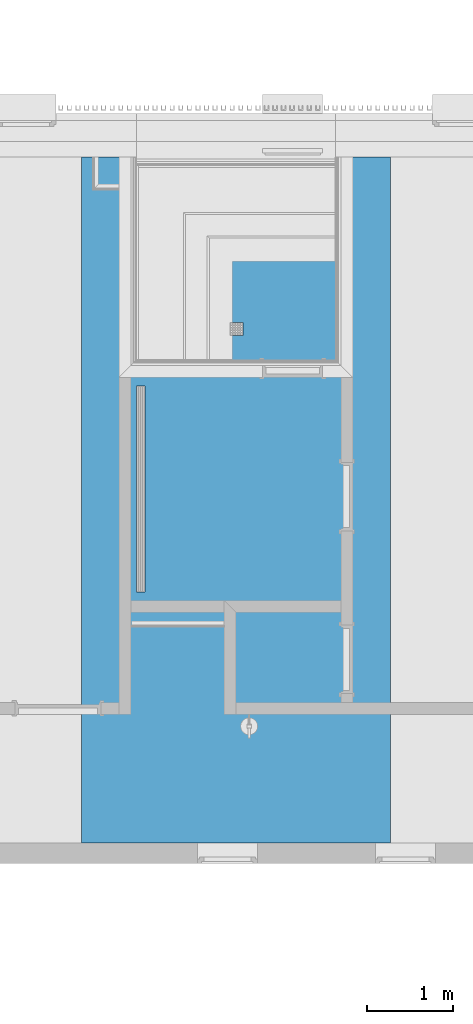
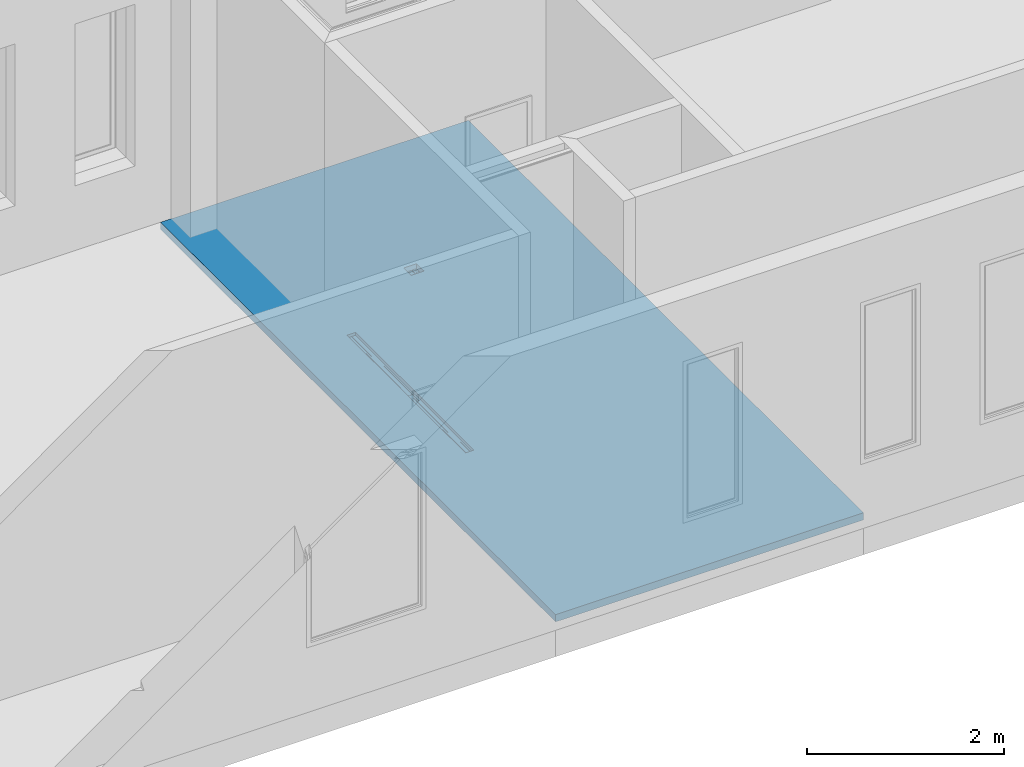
# One storey, part 64 of 100: 1 building element part, 1 element without a shape of its own.
"""IFC2X3 building model written with IfcOpenShell, lengths in millimetres."""

from ifc_helpers import new_model, entity, si_unit, converted_unit, derived_unit, money_unit, direction, frame, origin_with_axes, place, context, subcontext, project, spatial, polyline, outline, extrude, boolean, faceted_brep, material, type_object, element, aggregate, save


model = new_model("IFC2X3")

# Units and contexts
model_context = context("Model", 3, precision=0.01, world=origin_with_axes(), true_north=direction((0.0, 1.0)))
body_context = subcontext(model_context, "Body", "Model", "MODEL_VIEW")
ifc_project = project(units=[si_unit("LENGTHUNIT", "METRE", prefix="MILLI"), si_unit("AREAUNIT", "SQUARE_METRE"), si_unit("VOLUMEUNIT", "CUBIC_METRE"), converted_unit("PLANEANGLEUNIT", "DEGREE", entity("IfcPlaneAngleMeasure", 0.0174532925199), si_unit("PLANEANGLEUNIT", "RADIAN"), dimensions=[0, 0, 0, 0, 0, 0, 0]), si_unit("SOLIDANGLEUNIT", "STERADIAN"), money_unit("EUR"), converted_unit("TIMEUNIT", "Year", entity("IfcTimeMeasure", 31556926.0), si_unit("TIMEUNIT", "SECOND"), dimensions=[0, 0, 1, 0, 0, 0, 0]), si_unit("MASSUNIT", "GRAM", prefix="KILO"), si_unit("THERMODYNAMICTEMPERATUREUNIT", "DEGREE_CELSIUS"), si_unit("LUMINOUSINTENSITYUNIT", "LUMEN"), si_unit("ENERGYUNIT", "JOULE", prefix="MEGA"), derived_unit("THERMALCONDUCTANCEUNIT", [(si_unit("POWERUNIT", "WATT"), 1), (si_unit("LENGTHUNIT", "METRE"), -1), (si_unit("THERMODYNAMICTEMPERATUREUNIT", "KELVIN"), -1)]), derived_unit("SPECIFICHEATCAPACITYUNIT", [(si_unit("ENERGYUNIT", "JOULE"), 1), (si_unit("MASSUNIT", "GRAM", prefix="KILO"), -1), (si_unit("THERMODYNAMICTEMPERATUREUNIT", "KELVIN"), -1)]), derived_unit("MASSDENSITYUNIT", [(si_unit("MASSUNIT", "GRAM", prefix="KILO"), 1), (si_unit("VOLUMEUNIT", "CUBIC_METRE"), -1)])], contexts=[model_context])

# Site, building, storey
site_placement = place(None, origin_with_axes())
site = spatial("IfcSite", under=ifc_project, at=site_placement, Name="Politse- ja Piirivalveameti ning Päästeameti ühishoone", CompositionType="ELEMENT")
building_placement = place(site_placement, origin_with_axes())
building = spatial("IfcBuilding", under=site, at=building_placement, Name="Politse- ja Piirivalveameti ning Päästeameti ühishoone", CompositionType="ELEMENT")
storey_placement = place(building_placement, frame((0.0, 0.0, 3800.0), z_axis=(0.0, 0.0, 1.0), x_axis=(1.0, 0.0, 0.0)))
storey = spatial("IfcBuildingStorey", under=building, at=storey_placement, Name="Teine korrus", CompositionType="ELEMENT", Elevation=3800.0)

# Slab, building element part
slab_type = type_object("IfcSlabType", Name="VL-05_Vahelagi   400 paneel 520", PredefinedType="NOTDEFINED")
slab_placement = place(storey_placement, frame((42610.0318541, 13000.0198611, 0.0), z_axis=(0.0, 0.0, 1.0), x_axis=(1.0, 0.0, 0.0)))
slab = element("IfcSlab", 1, at=slab_placement, inside=storey, type_object=slab_type, Name="VL-05", PredefinedType="NOTDEFINED")
ifc_material = material(Name="VKR-01_Betoon")
building_element_part_placement = place(slab_placement, origin_with_axes())
building_element_part = element("IfcBuildingElementPart", 2, at=building_element_part_placement, material=ifc_material, Name="VKR-01_Betoon", context=body_context, shape_type="CSG", body=[
    boolean("DIFFERENCE", boolean("DIFFERENCE", boolean("DIFFERENCE", extrude(outline(polyline([(0.0, 0.0), (3599.96251087, 0.0), (3599.99627145, 7999.8850733), (-0.00384055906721, 7999.87354941), (0.0, 0.0)])), frame((0.0, 0.0, -90.0), z_axis=(0.0, 0.0, 1.0), x_axis=(1.0, 0.0, 0.0)), (0.0, 0.0, 1.0), 90.0), faceted_brep([(1730.20181919, 5919.88844434, -90.0), (1880.20181919, 5919.88844434, -90.0), (1880.20181919, 6069.88844434, -90.0), (1730.20181919, 6069.88844434, -90.0), (1849.70181919, 6039.38844434, -90.0), (1849.70181919, 6064.88844434, -90.0), (1875.20181919, 6064.88844434, -90.0), (1875.20181919, 6039.38844434, -90.0), (1849.70181919, 6010.38844434, -90.0), (1849.70181919, 6037.38844434, -90.0), (1875.20181919, 6037.38844434, -90.0), (1875.20181919, 6010.38844434, -90.0), (1849.70181919, 5981.38844434, -90.0), (1849.70181919, 6008.38844434, -90.0), (1875.20181919, 6008.38844434, -90.0), (1875.20181919, 5981.38844434, -90.0), (1849.70181919, 5952.38844434, -90.0), (1849.70181919, 5979.38844434, -90.0), (1875.20181919, 5979.38844434, -90.0), (1875.20181919, 5952.38844434, -90.0), (1820.70181919, 6039.38844434, -90.0), (1820.70181919, 6064.88844434, -90.0), (1847.70181919, 6064.88844434, -90.0), (1847.70181919, 6039.38844434, -90.0), (1820.70181919, 6010.38844434, -90.0), (1820.70181919, 6037.38844434, -90.0), (1847.70181919, 6037.38844434, -90.0), (1847.70181919, 6010.38844434, -90.0), (1820.70181919, 5981.38844434, -90.0), (1820.70181919, 6008.38844434, -90.0), (1847.70181919, 6008.38844434, -90.0), (1847.70181919, 5981.38844434, -90.0), (1820.70181919, 5952.38844434, -90.0), (1820.70181919, 5979.38844434, -90.0), (1847.70181919, 5979.38844434, -90.0), (1847.70181919, 5952.38844434, -90.0), (1791.70181919, 6039.38844434, -90.0), (1791.70181889, 6064.88844434, -90.0), (1818.70181919, 6064.88844434, -90.0), (1818.70181919, 6039.38844434, -90.0), (1791.70181919, 6010.38844434, -90.0), (1791.70181919, 6037.38844434, -90.0), (1818.70181919, 6037.38844434, -90.0), (1818.70181919, 6010.38844434, -90.0), (1791.70181919, 5981.38844434, -90.0), (1791.70181919, 6008.38844434, -90.0), (1818.70181919, 6008.38844434, -90.0), (1818.70181919, 5981.38844434, -90.0), (1791.70181919, 5952.38844434, -90.0), (1791.70181919, 5979.38844434, -90.0), (1818.70181919, 5979.38844434, -90.0), (1818.70181919, 5952.38844434, -90.0), (1762.70181919, 6039.38844434, -90.0), (1762.70181889, 6064.88844434, -90.0), (1789.70181919, 6064.88844434, -90.0), (1789.70181919, 6039.38844434, -90.0), (1762.70181919, 6010.38844434, -90.0), (1762.70181919, 6037.38844434, -90.0), (1789.70181919, 6037.38844434, -90.0), (1789.70181919, 6010.38844434, -90.0), (1762.70181919, 5981.38844434, -90.0), (1762.70181919, 6008.38844434, -90.0), (1789.70181919, 6008.38844434, -90.0), (1789.70181919, 5981.38844434, -90.0), (1762.70181919, 5952.38844434, -90.0), (1762.70181919, 5979.38844434, -90.0), (1789.70181919, 5979.38844434, -90.0), (1789.70181919, 5952.38844434, -90.0), (1735.20181919, 6039.38844434, -90.0), (1735.20181919, 6064.88844434, -90.0), (1760.70181919, 6064.88844434, -90.0), (1760.70181919, 6039.38844434, -90.0), (1735.20181919, 6010.38844434, -90.0), (1735.20181919, 6037.38844434, -90.0), (1760.70181919, 6037.38844434, -90.0), (1760.70181919, 6010.38844434, -90.0), (1735.20181919, 5981.38844434, -90.0), (1735.20181919, 6008.38844434, -90.0), (1760.70181919, 6008.38844434, -90.0), (1760.70181919, 5981.38844434, -90.0), (1735.20181919, 5952.38844434, -90.0), (1735.20181919, 5979.38844434, -90.0), (1760.70181919, 5979.38844434, -90.0), (1760.70181919, 5952.38844434, -90.0), (1735.20181919, 5924.88844434, -90.0), (1735.20181919, 5950.38844434, -90.0), (1760.70181919, 5950.38844434, -90.0), (1760.70181919, 5924.88844434, -90.0), (1762.70181919, 5924.88844434, -90.0), (1762.70181919, 5950.38844434, -90.0), (1789.70181919, 5950.38844434, -90.0), (1789.70181919, 5924.88844434, -90.0), (1791.70181919, 5924.88844434, -90.0), (1791.70181919, 5950.38844434, -90.0), (1818.70181919, 5950.38844434, -90.0), (1818.70181919, 5924.88844434, -90.0), (1820.70181919, 5924.88844434, -90.0), (1820.70181919, 5950.38844434, -90.0), (1847.70181919, 5950.38844434, -90.0), (1847.70181919, 5924.88844434, -90.0), (1849.70181919, 5924.88844434, -90.0), (1849.70181919, 5950.38844434, -90.0), (1875.20181919, 5950.38844434, -90.0), (1875.20181919, 5924.88844434, -90.0), (1730.20181919, 5919.88844434, -100.0), (1880.20181919, 5919.88844434, -100.0), (1880.20181919, 6069.88844434, -100.0), (1730.20181919, 6069.88844434, -100.0), (1849.70181919, 6039.38844434, -100.0), (1849.70181919, 6064.88844434, -100.0), (1875.20181919, 6064.88844434, -100.0), (1875.20181919, 6039.38844434, -100.0), (1849.70181919, 6010.38844434, -100.0), (1849.70181919, 6037.38844434, -100.0), (1875.20181919, 6037.38844434, -100.0), (1875.20181919, 6010.38844434, -100.0), (1849.70181919, 5981.38844434, -100.0), (1849.70181919, 6008.38844434, -100.0), (1875.20181919, 6008.38844434, -100.0), (1875.20181919, 5981.38844434, -100.0), (1849.70181919, 5952.38844434, -100.0), (1849.70181919, 5979.38844434, -100.0), (1875.20181919, 5979.38844434, -100.0), (1875.20181919, 5952.38844434, -100.0), (1820.70181919, 6039.38844434, -100.0), (1820.70181919, 6064.88844434, -100.0), (1847.70181919, 6064.88844434, -100.0), (1847.70181919, 6039.38844434, -100.0), (1820.70181919, 6010.38844434, -100.0), (1820.70181919, 6037.38844434, -100.0), (1847.70181919, 6037.38844434, -100.0), (1847.70181919, 6010.38844434, -100.0), (1820.70181919, 5981.38844434, -100.0), (1820.70181919, 6008.38844434, -100.0), (1847.70181919, 6008.38844434, -100.0), (1847.70181919, 5981.38844434, -100.0), (1820.70181919, 5952.38844434, -100.0), (1820.70181919, 5979.38844434, -100.0), (1847.70181919, 5979.38844434, -100.0), (1847.70181919, 5952.38844434, -100.0), (1791.70181919, 6039.38844434, -100.0), (1791.70181889, 6064.88844434, -100.0), (1818.70181919, 6064.88844434, -100.0), (1818.70181919, 6039.38844434, -100.0), (1791.70181919, 6010.38844434, -100.0), (1791.70181919, 6037.38844434, -100.0), (1818.70181919, 6037.38844434, -100.0), (1818.70181919, 6010.38844434, -100.0), (1791.70181919, 5981.38844434, -100.0), (1791.70181919, 6008.38844434, -100.0), (1818.70181919, 6008.38844434, -100.0), (1818.70181919, 5981.38844434, -100.0), (1791.70181919, 5952.38844434, -100.0), (1791.70181919, 5979.38844434, -100.0), (1818.70181919, 5979.38844434, -100.0), (1818.70181919, 5952.38844434, -100.0), (1762.70181919, 6039.38844434, -100.0), (1762.70181889, 6064.88844434, -100.0), (1789.70181919, 6064.88844434, -100.0), (1789.70181919, 6039.38844434, -100.0), (1762.70181919, 6010.38844434, -100.0), (1762.70181919, 6037.38844434, -100.0), (1789.70181919, 6037.38844434, -100.0), (1789.70181919, 6010.38844434, -100.0), (1762.70181919, 5981.38844434, -100.0), (1762.70181919, 6008.38844434, -100.0), (1789.70181919, 6008.38844434, -100.0), (1789.70181919, 5981.38844434, -100.0), (1762.70181919, 5952.38844434, -100.0), (1762.70181919, 5979.38844434, -100.0), (1789.70181919, 5979.38844434, -100.0), (1789.70181919, 5952.38844434, -100.0), (1735.20181919, 6039.38844434, -100.0), (1735.20181919, 6064.88844434, -100.0), (1760.70181919, 6064.88844434, -100.0), (1760.70181919, 6039.38844434, -100.0), (1735.20181919, 6010.38844434, -100.0), (1735.20181919, 6037.38844434, -100.0), (1760.70181919, 6037.38844434, -100.0), (1760.70181919, 6010.38844434, -100.0), (1735.20181919, 5981.38844434, -100.0), (1735.20181919, 6008.38844434, -100.0), (1760.70181919, 6008.38844434, -100.0), (1760.70181919, 5981.38844434, -100.0), (1735.20181919, 5952.38844434, -100.0), (1735.20181919, 5979.38844434, -100.0), (1760.70181919, 5979.38844434, -100.0), (1760.70181919, 5952.38844434, -100.0), (1735.20181919, 5924.88844434, -100.0), (1735.20181919, 5950.38844434, -100.0), (1760.70181919, 5950.38844434, -100.0), (1760.70181919, 5924.88844434, -100.0), (1762.70181919, 5924.88844434, -100.0), (1762.70181919, 5950.38844434, -100.0), (1789.70181919, 5950.38844434, -100.0), (1789.70181919, 5924.88844434, -100.0), (1791.70181919, 5924.88844434, -100.0), (1791.70181919, 5950.38844434, -100.0), (1818.70181919, 5950.38844434, -100.0), (1818.70181919, 5924.88844434, -100.0), (1820.70181919, 5924.88844434, -100.0), (1820.70181919, 5950.38844434, -100.0), (1847.70181919, 5950.38844434, -100.0), (1847.70181919, 5924.88844434, -100.0), (1849.70181919, 5924.88844434, -100.0), (1849.70181919, 5950.38844434, -100.0), (1875.20181919, 5950.38844434, -100.0), (1875.20181919, 5924.88844434, -100.0)], [[[0, 1, 2, 3], [4, 5, 6, 7], [8, 9, 10, 11], [12, 13, 14, 15], [16, 17, 18, 19], [20, 21, 22, 23], [24, 25, 26, 27], [28, 29, 30, 31], [32, 33, 34, 35], [36, 37, 38, 39], [40, 41, 42, 43], [44, 45, 46, 47], [48, 49, 50, 51], [52, 53, 54, 55], [56, 57, 58, 59], [60, 61, 62, 63], [64, 65, 66, 67], [68, 69, 70, 71], [72, 73, 74, 75], [76, 77, 78, 79], [80, 81, 82, 83], [84, 85, 86, 87], [88, 89, 90, 91], [92, 93, 94, 95], [96, 97, 98, 99], [100, 101, 102, 103]], [[1, 0, 104, 105]], [[2, 1, 105, 106]], [[3, 2, 106, 107]], [[0, 3, 107, 104]], [[5, 4, 108, 109]], [[6, 5, 109, 110]], [[7, 6, 110, 111]], [[4, 7, 111, 108]], [[9, 8, 112, 113]], [[10, 9, 113, 114]], [[11, 10, 114, 115]], [[8, 11, 115, 112]], [[13, 12, 116, 117]], [[14, 13, 117, 118]], [[15, 14, 118, 119]], [[12, 15, 119, 116]], [[17, 16, 120, 121]], [[18, 17, 121, 122]], [[19, 18, 122, 123]], [[16, 19, 123, 120]], [[21, 20, 124, 125]], [[22, 21, 125, 126]], [[23, 22, 126, 127]], [[20, 23, 127, 124]], [[25, 24, 128, 129]], [[26, 25, 129, 130]], [[27, 26, 130, 131]], [[24, 27, 131, 128]], [[29, 28, 132, 133]], [[30, 29, 133, 134]], [[31, 30, 134, 135]], [[28, 31, 135, 132]], [[33, 32, 136, 137]], [[34, 33, 137, 138]], [[35, 34, 138, 139]], [[32, 35, 139, 136]], [[37, 36, 140, 141]], [[38, 37, 141, 142]], [[39, 38, 142, 143]], [[36, 39, 143, 140]], [[41, 40, 144, 145]], [[42, 41, 145, 146]], [[43, 42, 146, 147]], [[40, 43, 147, 144]], [[45, 44, 148, 149]], [[46, 45, 149, 150]], [[47, 46, 150, 151]], [[44, 47, 151, 148]], [[49, 48, 152, 153]], [[50, 49, 153, 154]], [[51, 50, 154, 155]], [[48, 51, 155, 152]], [[53, 52, 156, 157]], [[54, 53, 157, 158]], [[55, 54, 158, 159]], [[52, 55, 159, 156]], [[57, 56, 160, 161]], [[58, 57, 161, 162]], [[59, 58, 162, 163]], [[56, 59, 163, 160]], [[61, 60, 164, 165]], [[62, 61, 165, 166]], [[63, 62, 166, 167]], [[60, 63, 167, 164]], [[65, 64, 168, 169]], [[66, 65, 169, 170]], [[67, 66, 170, 171]], [[64, 67, 171, 168]], [[69, 68, 172, 173]], [[70, 69, 173, 174]], [[71, 70, 174, 175]], [[68, 71, 175, 172]], [[73, 72, 176, 177]], [[74, 73, 177, 178]], [[75, 74, 178, 179]], [[72, 75, 179, 176]], [[77, 76, 180, 181]], [[78, 77, 181, 182]], [[79, 78, 182, 183]], [[76, 79, 183, 180]], [[81, 80, 184, 185]], [[82, 81, 185, 186]], [[83, 82, 186, 187]], [[80, 83, 187, 184]], [[85, 84, 188, 189]], [[86, 85, 189, 190]], [[87, 86, 190, 191]], [[84, 87, 191, 188]], [[89, 88, 192, 193]], [[90, 89, 193, 194]], [[91, 90, 194, 195]], [[88, 91, 195, 192]], [[93, 92, 196, 197]], [[94, 93, 197, 198]], [[95, 94, 198, 199]], [[92, 95, 199, 196]], [[97, 96, 200, 201]], [[98, 97, 201, 202]], [[99, 98, 202, 203]], [[96, 99, 203, 200]], [[101, 100, 204, 205]], [[102, 101, 205, 206]], [[103, 102, 206, 207]], [[100, 103, 207, 204]], [[107, 173, 172, 177, 176, 181, 180, 185, 184, 189, 188, 191, 192, 195, 196, 199, 200, 203, 204, 207, 206, 123, 122, 119, 118, 115, 114, 111, 110, 106, 105, 104]], [[173, 107, 106, 110, 109, 108, 113, 112, 117, 116, 121, 120, 205, 204, 203, 202, 139, 138, 135, 134, 131, 130, 127, 126, 125, 124, 129, 128, 133, 132, 137, 136, 201, 200, 199, 198, 155, 154, 151, 150, 147, 146, 143, 142, 141, 140, 145, 144, 149, 148, 153, 152, 197, 196, 195, 194, 171, 170, 167, 166, 163, 162, 159, 158, 157, 156, 161, 160, 165, 164, 169, 168, 193, 192, 191, 190, 187, 186, 183, 182, 179, 178, 175, 174]], [[114, 113, 108, 111]], [[117, 112, 115, 118]], [[122, 121, 116, 119]], [[206, 205, 120, 123]], [[130, 129, 124, 127]], [[133, 128, 131, 134]], [[138, 137, 132, 135]], [[201, 136, 139, 202]], [[145, 140, 143, 146]], [[150, 149, 144, 147]], [[154, 153, 148, 151]], [[197, 152, 155, 198]], [[159, 162, 161, 156]], [[166, 165, 160, 163]], [[170, 169, 164, 167]], [[171, 194, 193, 168]], [[175, 178, 177, 172]], [[179, 182, 181, 176]], [[183, 186, 185, 180]], [[187, 190, 189, 184]]])), faceted_brep([(638.379615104, 2928.96744272, 0.0), (738.379615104, 2928.96744272, 0.0), (738.379615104, 5328.96744272, 0.0), (638.379615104, 5328.96744272, 0.0), (638.379615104, 2928.96744272, -50.0), (738.379615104, 2928.96744272, -50.0), (738.379615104, 5328.96744272, -50.0), (638.379615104, 5328.96744272, -50.0), (643.379615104, 5323.96744272, -50.0), (643.379615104, 4129.96744272, -50.0), (643.379615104, 4127.96744272, -50.0), (643.379615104, 2933.96744272, -50.0), (663.629615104, 2933.96744272, -50.0), (665.629615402, 2933.96744272, -50.0), (687.379615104, 2933.96744272, -50.0), (689.379615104, 2933.96744272, -50.0), (711.129615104, 2933.96744272, -50.0), (713.129615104, 2933.96744272, -50.0), (733.379615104, 2933.96744272, -50.0), (733.379615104, 4127.96744272, -50.0), (733.379615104, 4129.96744272, -50.0), (733.379615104, 5323.96744272, -50.0), (713.129615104, 5323.96744272, -50.0), (713.129615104, 4129.96744272, -50.0), (713.129615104, 4127.96744272, -50.0), (711.129615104, 4127.96744272, -50.0), (711.129615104, 4129.96744272, -50.0), (711.129615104, 5323.96744272, -50.0), (689.379615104, 5323.96744272, -50.0), (689.379615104, 4129.96744272, -50.0), (689.379615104, 4127.96744272, -50.0), (687.379615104, 4127.96744272, -50.0), (687.379615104, 4129.96744272, -50.0), (687.379615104, 5323.96744272, -50.0), (665.629615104, 5323.96744272, -50.0), (665.629615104, 4129.96744272, -50.0), (665.629615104, 4127.96744272, -50.0), (663.629615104, 4127.96744272, -50.0), (663.629615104, 4129.96744272, -50.0), (663.629615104, 5323.96744272, -50.0), (643.379615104, 5323.96744272, -31.35), (643.379615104, 4129.96744272, -31.35), (643.379615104, 4127.96744272, -31.35), (643.379615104, 2933.96744272, -31.35), (663.629615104, 2933.96744272, -31.35), (665.629615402, 2933.96744272, -31.35), (687.379615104, 2933.96744272, -31.35), (689.379615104, 2933.96744272, -31.35), (711.129615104, 2933.96744272, -31.35), (713.129615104, 2933.96744272, -31.35), (733.379615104, 2933.96744272, -31.35), (733.379615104, 4127.96744272, -31.35), (733.379615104, 4129.96744272, -31.35), (733.379615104, 5323.96744272, -31.35), (713.129615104, 5323.96744272, -31.35), (713.129615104, 4129.96744272, -31.35), (713.129615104, 4127.96744272, -31.35), (711.129615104, 4127.96744272, -31.35), (711.129615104, 4129.96744272, -31.35), (711.129615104, 5323.96744272, -31.35), (689.379615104, 5323.96744272, -31.35), (689.379615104, 4129.96744272, -31.35), (689.379615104, 4127.96744272, -31.35), (687.379615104, 4127.96744272, -31.35), (687.379615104, 4129.96744272, -31.35), (687.379615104, 5323.96744272, -31.35), (665.629615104, 5323.96744272, -31.35), (665.629615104, 4129.96744272, -31.35), (665.629615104, 4127.96744272, -31.35), (663.629615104, 4127.96744272, -31.35), (663.629615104, 4129.96744272, -31.35), (663.629615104, 5323.96744272, -31.35)], [[[0, 1, 2, 3]], [[1, 0, 4, 5]], [[2, 1, 5, 6]], [[3, 2, 6, 7]], [[0, 3, 7, 4]], [[7, 8, 9, 10, 11, 12, 13, 14, 15, 16, 17, 18, 19, 20, 21, 6, 5, 4]], [[8, 7, 6, 21, 22, 23, 24, 17, 16, 25, 26, 27, 28, 29, 30, 15, 14, 31, 32, 33, 34, 35, 36, 13, 12, 37, 38, 39]], [[8, 40, 41, 9]], [[10, 9, 38, 37]], [[10, 42, 43, 11]], [[11, 43, 44, 12]], [[13, 45, 46, 14]], [[15, 47, 48, 16]], [[17, 49, 50, 18]], [[18, 50, 51, 19]], [[24, 23, 20, 19]], [[20, 52, 53, 21]], [[54, 22, 21, 53]], [[22, 54, 55, 23]], [[49, 17, 24, 56]], [[16, 48, 57, 25]], [[25, 30, 29, 26]], [[26, 58, 59, 27]], [[60, 28, 27, 59]], [[28, 60, 61, 29]], [[47, 15, 30, 62]], [[63, 31, 14, 46]], [[36, 35, 32, 31]], [[32, 64, 65, 33]], [[66, 34, 33, 65]], [[34, 66, 67, 35]], [[36, 68, 45, 13]], [[69, 37, 12, 44]], [[38, 70, 71, 39]], [[40, 8, 39, 71]], [[41, 40, 71, 70]], [[9, 41, 70, 38]], [[42, 10, 37, 69]], [[43, 42, 69, 44]], [[68, 63, 46, 45]], [[48, 47, 62, 57]], [[50, 49, 56, 51]], [[56, 24, 19, 51]], [[23, 55, 52, 20]], [[52, 55, 54, 53]], [[62, 30, 25, 57]], [[29, 61, 58, 26]], [[61, 60, 59, 58]], [[68, 36, 31, 63]], [[35, 67, 64, 32]], [[64, 67, 66, 65]]])), faceted_brep([(1730.20181919, 5919.88844434, -90.0), (1730.20181919, 6069.88844434, -90.0), (1880.20181919, 6069.88844434, -90.0), (1880.20181919, 5919.88844434, -90.0), (1849.70181919, 6039.38844434, -90.0), (1875.20181919, 6039.38844434, -90.0), (1875.20181919, 6064.88844434, -90.0), (1849.70181919, 6064.88844434, -90.0), (1849.70181919, 6010.38844434, -90.0), (1875.20181919, 6010.38844434, -90.0), (1875.20181919, 6037.38844434, -90.0), (1849.70181919, 6037.38844434, -90.0), (1849.70181919, 5981.38844434, -90.0), (1875.20181919, 5981.38844434, -90.0), (1875.20181919, 6008.38844434, -90.0), (1849.70181919, 6008.38844434, -90.0), (1849.70181919, 5952.38844434, -90.0), (1875.20181919, 5952.38844434, -90.0), (1875.20181919, 5979.38844434, -90.0), (1849.70181919, 5979.38844434, -90.0), (1820.70181919, 6039.38844434, -90.0), (1847.70181919, 6039.38844434, -90.0), (1847.70181919, 6064.88844434, -90.0), (1820.70181919, 6064.88844434, -90.0), (1820.70181919, 6010.38844434, -90.0), (1847.70181919, 6010.38844434, -90.0), (1847.70181919, 6037.38844434, -90.0), (1820.70181919, 6037.38844434, -90.0), (1820.70181919, 5981.38844434, -90.0), (1847.70181919, 5981.38844434, -90.0), (1847.70181919, 6008.38844434, -90.0), (1820.70181919, 6008.38844434, -90.0), (1820.70181919, 5952.38844434, -90.0), (1847.70181919, 5952.38844434, -90.0), (1847.70181919, 5979.38844434, -90.0), (1820.70181919, 5979.38844434, -90.0), (1791.70181919, 6039.38844434, -90.0), (1818.70181919, 6039.38844434, -90.0), (1818.70181919, 6064.88844434, -90.0), (1791.70181889, 6064.88844434, -90.0), (1791.70181919, 6010.38844434, -90.0), (1818.70181919, 6010.38844434, -90.0), (1818.70181919, 6037.38844434, -90.0), (1791.70181919, 6037.38844434, -90.0), (1791.70181919, 5981.38844434, -90.0), (1818.70181919, 5981.38844434, -90.0), (1818.70181919, 6008.38844434, -90.0), (1791.70181919, 6008.38844434, -90.0), (1791.70181919, 5952.38844434, -90.0), (1818.70181919, 5952.38844434, -90.0), (1818.70181919, 5979.38844434, -90.0), (1791.70181919, 5979.38844434, -90.0), (1762.70181919, 6039.38844434, -90.0), (1789.70181919, 6039.38844434, -90.0), (1789.70181919, 6064.88844434, -90.0), (1762.70181889, 6064.88844434, -90.0), (1762.70181919, 6010.38844434, -90.0), (1789.70181919, 6010.38844434, -90.0), (1789.70181919, 6037.38844434, -90.0), (1762.70181919, 6037.38844434, -90.0), (1762.70181919, 5981.38844434, -90.0), (1789.70181919, 5981.38844434, -90.0), (1789.70181919, 6008.38844434, -90.0), (1762.70181919, 6008.38844434, -90.0), (1762.70181919, 5952.38844434, -90.0), (1789.70181919, 5952.38844434, -90.0), (1789.70181919, 5979.38844434, -90.0), (1762.70181919, 5979.38844434, -90.0), (1735.20181919, 6039.38844434, -90.0), (1760.70181919, 6039.38844434, -90.0), (1760.70181919, 6064.88844434, -90.0), (1735.20181919, 6064.88844434, -90.0), (1735.20181919, 6010.38844434, -90.0), (1760.70181919, 6010.38844434, -90.0), (1760.70181919, 6037.38844434, -90.0), (1735.20181919, 6037.38844434, -90.0), (1735.20181919, 5981.38844434, -90.0), (1760.70181919, 5981.38844434, -90.0), (1760.70181919, 6008.38844434, -90.0), (1735.20181919, 6008.38844434, -90.0), (1735.20181919, 5952.38844434, -90.0), (1760.70181919, 5952.38844434, -90.0), (1760.70181919, 5979.38844434, -90.0), (1735.20181919, 5979.38844434, -90.0), (1735.20181919, 5924.88844434, -90.0), (1760.70181919, 5924.88844434, -90.0), (1760.70181919, 5950.38844434, -90.0), (1735.20181919, 5950.38844434, -90.0), (1762.70181919, 5924.88844434, -90.0), (1789.70181919, 5924.88844434, -90.0), (1789.70181919, 5950.38844434, -90.0), (1762.70181919, 5950.38844434, -90.0), (1791.70181919, 5924.88844434, -90.0), (1818.70181919, 5924.88844434, -90.0), (1818.70181919, 5950.38844434, -90.0), (1791.70181919, 5950.38844434, -90.0), (1820.70181919, 5924.88844434, -90.0), (1847.70181919, 5924.88844434, -90.0), (1847.70181919, 5950.38844434, -90.0), (1820.70181919, 5950.38844434, -90.0), (1849.70181919, 5924.88844434, -90.0), (1875.20181919, 5924.88844434, -90.0), (1875.20181919, 5950.38844434, -90.0), (1849.70181919, 5950.38844434, -90.0), (1730.20181919, 5919.88844434, 0.0), (1730.20181919, 6069.88844434, 0.0), (1880.20181919, 6069.88844434, 0.0), (1880.20181919, 5919.88844434, 0.0), (1849.70181919, 6039.38844434, -56.35), (1875.20181919, 6039.38844434, -56.35), (1875.20181919, 6064.88844434, -56.35), (1849.70181919, 6064.88844434, -56.35), (1849.70181919, 6010.38844434, -56.35), (1875.20181919, 6010.38844434, -56.35), (1875.20181919, 6037.38844434, -56.35), (1849.70181919, 6037.38844434, -56.35), (1849.70181919, 5981.38844434, -56.35), (1875.20181919, 5981.38844434, -56.35), (1875.20181919, 6008.38844434, -56.35), (1849.70181919, 6008.38844434, -56.35), (1849.70181919, 5952.38844434, -56.35), (1875.20181919, 5952.38844434, -56.35), (1875.20181919, 5979.38844434, -56.35), (1849.70181919, 5979.38844434, -56.35), (1820.70181919, 6039.38844434, -56.35), (1847.70181919, 6039.38844434, -56.35), (1847.70181919, 6064.88844434, -56.35), (1820.70181919, 6064.88844434, -56.35), (1820.70181919, 6010.38844434, -56.35), (1847.70181919, 6010.38844434, -56.35), (1847.70181919, 6037.38844434, -56.35), (1820.70181919, 6037.38844434, -56.35), (1820.70181919, 5981.38844434, -56.35), (1847.70181919, 5981.38844434, -56.35), (1847.70181919, 6008.38844434, -56.35), (1820.70181919, 6008.38844434, -56.35), (1820.70181919, 5952.38844434, -56.35), (1847.70181919, 5952.38844434, -56.35), (1847.70181919, 5979.38844434, -56.35), (1820.70181919, 5979.38844434, -56.35), (1791.70181919, 6039.38844434, -56.35), (1818.70181919, 6039.38844434, -56.35), (1818.70181919, 6064.88844434, -56.35), (1791.70181889, 6064.88844434, -56.35), (1791.70181919, 6010.38844434, -56.35), (1818.70181919, 6010.38844434, -56.35), (1818.70181919, 6037.38844434, -56.35), (1791.70181919, 6037.38844434, -56.35), (1791.70181919, 5981.38844434, -56.35), (1818.70181919, 5981.38844434, -56.35), (1818.70181919, 6008.38844434, -56.35), (1791.70181919, 6008.38844434, -56.35), (1791.70181919, 5952.38844434, -56.35), (1818.70181919, 5952.38844434, -56.35), (1818.70181919, 5979.38844434, -56.35), (1791.70181919, 5979.38844434, -56.35), (1762.70181919, 6039.38844434, -56.35), (1789.70181919, 6039.38844434, -56.35), (1789.70181919, 6064.88844434, -56.35), (1762.70181889, 6064.88844434, -56.35), (1762.70181919, 6010.38844434, -56.35), (1789.70181919, 6010.38844434, -56.35), (1789.70181919, 6037.38844434, -56.35), (1762.70181919, 6037.38844434, -56.35), (1762.70181919, 5981.38844434, -56.35), (1789.70181919, 5981.38844434, -56.35), (1789.70181919, 6008.38844434, -56.35), (1762.70181919, 6008.38844434, -56.35), (1762.70181919, 5952.38844434, -56.35), (1789.70181919, 5952.38844434, -56.35), (1789.70181919, 5979.38844434, -56.35), (1762.70181919, 5979.38844434, -56.35), (1735.20181919, 6039.38844434, -56.35), (1760.70181919, 6039.38844434, -56.35), (1760.70181919, 6064.88844434, -56.35), (1735.20181919, 6064.88844434, -56.35), (1735.20181919, 6010.38844434, -56.35), (1760.70181919, 6010.38844434, -56.35), (1760.70181919, 6037.38844434, -56.35), (1735.20181919, 6037.38844434, -56.35), (1735.20181919, 5981.38844434, -56.35), (1760.70181919, 5981.38844434, -56.35), (1760.70181919, 6008.38844434, -56.35), (1735.20181919, 6008.38844434, -56.35), (1735.20181919, 5952.38844434, -56.35), (1760.70181919, 5952.38844434, -56.35), (1760.70181919, 5979.38844434, -56.35), (1735.20181919, 5979.38844434, -56.35), (1735.20181919, 5924.88844434, -56.35), (1760.70181919, 5924.88844434, -56.35), (1760.70181919, 5950.38844434, -56.35), (1735.20181919, 5950.38844434, -56.35), (1762.70181919, 5924.88844434, -56.35), (1789.70181919, 5924.88844434, -56.35), (1789.70181919, 5950.38844434, -56.35), (1762.70181919, 5950.38844434, -56.35), (1791.70181919, 5924.88844434, -56.35), (1818.70181919, 5924.88844434, -56.35), (1818.70181919, 5950.38844434, -56.35), (1791.70181919, 5950.38844434, -56.35), (1820.70181919, 5924.88844434, -56.35), (1847.70181919, 5924.88844434, -56.35), (1847.70181919, 5950.38844434, -56.35), (1820.70181919, 5950.38844434, -56.35), (1849.70181919, 5924.88844434, -56.35), (1875.20181919, 5924.88844434, -56.35), (1875.20181919, 5950.38844434, -56.35), (1849.70181919, 5950.38844434, -56.35)], [[[0, 1, 2, 3], [4, 5, 6, 7], [8, 9, 10, 11], [12, 13, 14, 15], [16, 17, 18, 19], [20, 21, 22, 23], [24, 25, 26, 27], [28, 29, 30, 31], [32, 33, 34, 35], [36, 37, 38, 39], [40, 41, 42, 43], [44, 45, 46, 47], [48, 49, 50, 51], [52, 53, 54, 55], [56, 57, 58, 59], [60, 61, 62, 63], [64, 65, 66, 67], [68, 69, 70, 71], [72, 73, 74, 75], [76, 77, 78, 79], [80, 81, 82, 83], [84, 85, 86, 87], [88, 89, 90, 91], [92, 93, 94, 95], [96, 97, 98, 99], [100, 101, 102, 103]], [[104, 105, 1, 0]], [[105, 106, 2, 1]], [[106, 107, 3, 2]], [[107, 104, 0, 3]], [[5, 4, 108, 109]], [[6, 5, 109, 110]], [[7, 6, 110, 111]], [[4, 7, 111, 108]], [[9, 8, 112, 113]], [[10, 9, 113, 114]], [[11, 10, 114, 115]], [[8, 11, 115, 112]], [[13, 12, 116, 117]], [[14, 13, 117, 118]], [[15, 14, 118, 119]], [[12, 15, 119, 116]], [[17, 16, 120, 121]], [[18, 17, 121, 122]], [[19, 18, 122, 123]], [[16, 19, 123, 120]], [[21, 20, 124, 125]], [[22, 21, 125, 126]], [[23, 22, 126, 127]], [[20, 23, 127, 124]], [[25, 24, 128, 129]], [[26, 25, 129, 130]], [[27, 26, 130, 131]], [[24, 27, 131, 128]], [[29, 28, 132, 133]], [[30, 29, 133, 134]], [[31, 30, 134, 135]], [[28, 31, 135, 132]], [[33, 32, 136, 137]], [[34, 33, 137, 138]], [[35, 34, 138, 139]], [[32, 35, 139, 136]], [[37, 36, 140, 141]], [[38, 37, 141, 142]], [[39, 38, 142, 143]], [[36, 39, 143, 140]], [[41, 40, 144, 145]], [[42, 41, 145, 146]], [[43, 42, 146, 147]], [[40, 43, 147, 144]], [[45, 44, 148, 149]], [[46, 45, 149, 150]], [[47, 46, 150, 151]], [[44, 47, 151, 148]], [[49, 48, 152, 153]], [[50, 49, 153, 154]], [[51, 50, 154, 155]], [[48, 51, 155, 152]], [[53, 52, 156, 157]], [[54, 53, 157, 158]], [[55, 54, 158, 159]], [[52, 55, 159, 156]], [[57, 56, 160, 161]], [[58, 57, 161, 162]], [[59, 58, 162, 163]], [[56, 59, 163, 160]], [[61, 60, 164, 165]], [[62, 61, 165, 166]], [[63, 62, 166, 167]], [[60, 63, 167, 164]], [[65, 64, 168, 169]], [[66, 65, 169, 170]], [[67, 66, 170, 171]], [[64, 67, 171, 168]], [[69, 68, 172, 173]], [[70, 69, 173, 174]], [[71, 70, 174, 175]], [[68, 71, 175, 172]], [[73, 72, 176, 177]], [[74, 73, 177, 178]], [[75, 74, 178, 179]], [[72, 75, 179, 176]], [[77, 76, 180, 181]], [[78, 77, 181, 182]], [[79, 78, 182, 183]], [[76, 79, 183, 180]], [[81, 80, 184, 185]], [[82, 81, 185, 186]], [[83, 82, 186, 187]], [[80, 83, 187, 184]], [[85, 84, 188, 189]], [[86, 85, 189, 190]], [[87, 86, 190, 191]], [[84, 87, 191, 188]], [[89, 88, 192, 193]], [[90, 89, 193, 194]], [[91, 90, 194, 195]], [[88, 91, 195, 192]], [[93, 92, 196, 197]], [[94, 93, 197, 198]], [[95, 94, 198, 199]], [[92, 95, 199, 196]], [[97, 96, 200, 201]], [[98, 97, 201, 202]], [[99, 98, 202, 203]], [[96, 99, 203, 200]], [[101, 100, 204, 205]], [[102, 101, 205, 206]], [[103, 102, 206, 207]], [[100, 103, 207, 204]], [[104, 107, 106, 105]], [[110, 109, 108, 111]], [[113, 112, 115, 114]], [[117, 116, 119, 118]], [[122, 121, 120, 123]], [[125, 124, 127, 126]], [[128, 131, 130, 129]], [[133, 132, 135, 134]], [[138, 137, 136, 139]], [[141, 140, 143, 142]], [[145, 144, 147, 146]], [[148, 151, 150, 149]], [[152, 155, 154, 153]], [[157, 156, 159, 158]], [[162, 161, 160, 163]], [[165, 164, 167, 166]], [[168, 171, 170, 169]], [[173, 172, 175, 174]], [[176, 179, 178, 177]], [[180, 183, 182, 181]], [[184, 187, 186, 185]], [[189, 188, 191, 190]], [[192, 195, 194, 193]], [[198, 197, 196, 199]], [[202, 201, 200, 203]], [[206, 205, 204, 207]]])),
])
aggregate(slab, [building_element_part])

save(model, "model.ifc")
